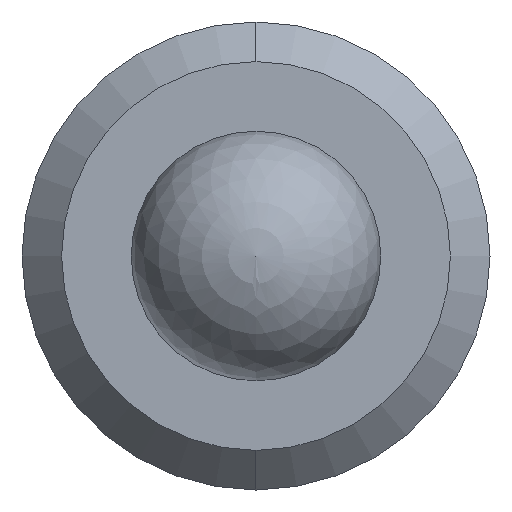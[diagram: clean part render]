
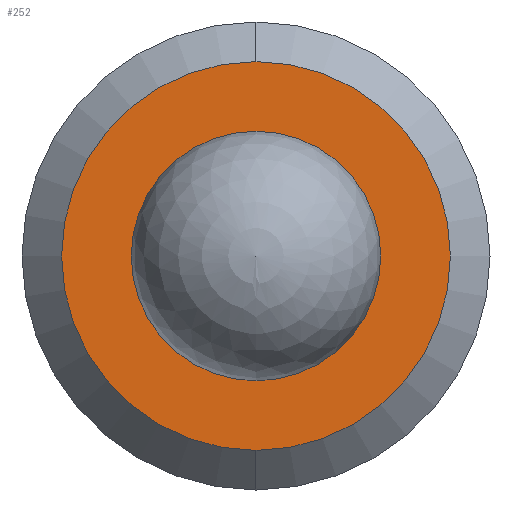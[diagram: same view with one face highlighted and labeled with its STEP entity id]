
A CAD part, left-side view. The second image highlights one B-rep face of the part: STEP entity #252.
In plain terms, the highlighted planar face has unit normal (-1, 0, 0).
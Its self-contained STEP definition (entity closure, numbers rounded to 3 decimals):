
#4 = CARTESIAN_POINT ( 'NONE',  ( 0., 0., 0. ) ) ;
#6 = CARTESIAN_POINT ( 'NONE',  ( 0., 0., 0. ) ) ;
#8 = ORIENTED_EDGE ( 'NONE', *, *, #596, .T. ) ;
#38 = ORIENTED_EDGE ( 'NONE', *, *, #418, .T. ) ;
#52 = DIRECTION ( 'NONE',  ( -1., 0., 0. ) ) ;
#92 = ORIENTED_EDGE ( 'NONE', *, *, #310, .F. ) ;
#98 = ORIENTED_EDGE ( 'NONE', *, *, #590, .F. ) ;
#105 = DIRECTION ( 'NONE',  ( 0., 0., -1. ) ) ;
#118 = DIRECTION ( 'NONE',  ( -1., 0., 0. ) ) ;
#124 = CARTESIAN_POINT ( 'NONE',  ( 0., 0., -1.246 ) ) ;
#135 = AXIS2_PLACEMENT_3D ( 'NONE', #445, #118, #375 ) ;
#150 = VERTEX_POINT ( 'NONE', #538 ) ;
#156 = AXIS2_PLACEMENT_3D ( 'NONE', #6, #369, #105 ) ;
#168 = VERTEX_POINT ( 'NONE', #124 ) ;
#203 = CIRCLE ( 'NONE', #529, 1.246 ) ;
#215 = CIRCLE ( 'NONE', #135, 0.8 ) ;
#247 = CARTESIAN_POINT ( 'NONE',  ( 0., 0., 0. ) ) ;
#252 = ADVANCED_FACE ( 'NONE', ( #379, #394 ), #513, .F. ) ;
#261 = CARTESIAN_POINT ( 'NONE',  ( 0., 0., 0. ) ) ;
#283 = DIRECTION ( 'NONE',  ( 0., 0., -1. ) ) ;
#310 = EDGE_CURVE ( 'NONE', #399, #457, #215, .T. ) ;
#361 = DIRECTION ( 'NONE',  ( 0., 0., 1. ) ) ;
#369 = DIRECTION ( 'NONE',  ( 1., 0., 0. ) ) ;
#375 = DIRECTION ( 'NONE',  ( 0., 0., 1. ) ) ;
#379 = FACE_BOUND ( 'NONE', #512, .T. ) ;
#394 = FACE_OUTER_BOUND ( 'NONE', #574, .T. ) ;
#399 = VERTEX_POINT ( 'NONE', #520 ) ;
#418 = EDGE_CURVE ( 'NONE', #168, #150, #203, .T. ) ;
#445 = CARTESIAN_POINT ( 'NONE',  ( 0., 0., 0. ) ) ;
#457 = VERTEX_POINT ( 'NONE', #583 ) ;
#465 = DIRECTION ( 'NONE',  ( -1., 0., 0. ) ) ;
#467 = AXIS2_PLACEMENT_3D ( 'NONE', #261, #52, #602 ) ;
#479 = AXIS2_PLACEMENT_3D ( 'NONE', #4, #465, #361 ) ;
#512 = EDGE_LOOP ( 'NONE', ( #98, #92 ) ) ;
#513 = PLANE ( 'NONE',  #156 ) ;
#520 = CARTESIAN_POINT ( 'NONE',  ( 0., 0., -0.8 ) ) ;
#529 = AXIS2_PLACEMENT_3D ( 'NONE', #247, #579, #283 ) ;
#538 = CARTESIAN_POINT ( 'NONE',  ( 0., 0., 1.246 ) ) ;
#552 = CIRCLE ( 'NONE', #467, 1.246 ) ;
#564 = CIRCLE ( 'NONE', #479, 0.8 ) ;
#574 = EDGE_LOOP ( 'NONE', ( #38, #8 ) ) ;
#579 = DIRECTION ( 'NONE',  ( -1., 0., 0. ) ) ;
#583 = CARTESIAN_POINT ( 'NONE',  ( 0., 0., 0.8 ) ) ;
#590 = EDGE_CURVE ( 'NONE', #457, #399, #564, .T. ) ;
#596 = EDGE_CURVE ( 'NONE', #150, #168, #552, .T. ) ;
#602 = DIRECTION ( 'NONE',  ( 0., 0., -1. ) ) ;
